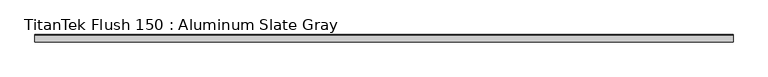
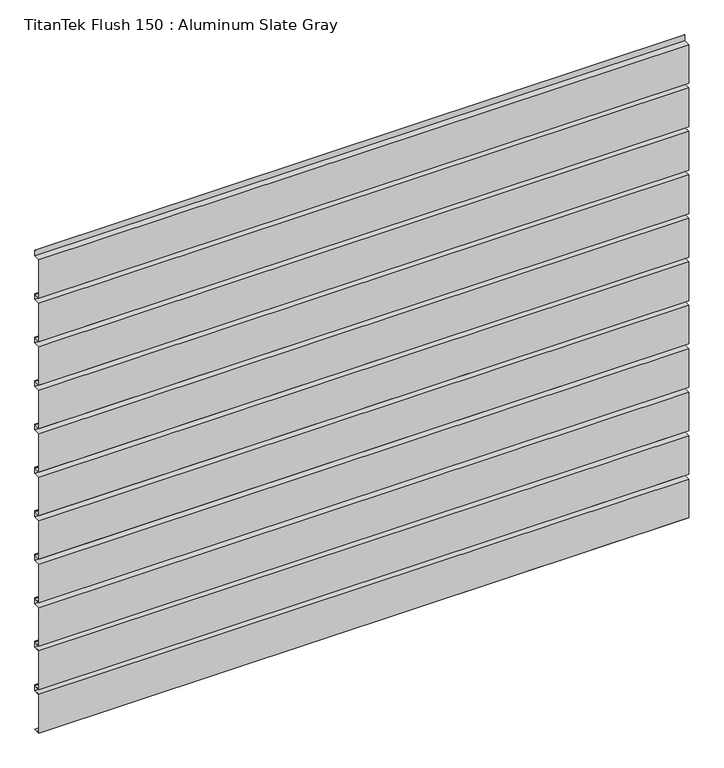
"""IFC4 building model written with IfcOpenShell, lengths in millimetres: proxy geometry, TitanTek Flush 150 : Aluminum Slate Gray."""

from ifc_helpers import new_model, si_unit, frame, origin, place, context, project, spatial, polyline, outline, extrude, source, transform, mapped, element, save


def titantek_flush_150_aluminum_slate_gray_06856ec8(model_context):
    return source(origin(), model_context, "Body", "SweptSolid", [
        extrude(outline(polyline([(-38.1, 3429.0), (-38.1, 3733.8), (12.7, 3733.8), (12.7, 3778.25), (13.6921875, 3778.25), (13.6921875, 3732.8078125), (-37.1078125, 3732.8078125), (-37.1078125, 3429.9921875), (12.7, 3429.9921875), (12.7, 3429.0), (-38.1, 3429.0)])), frame((0.0, 0.0, 0.0), z_axis=(1.0, 0.0, 0.0), x_axis=(0.0, 1.0, 0.0)), (0.0, 0.0, 1.0), 4850.0),
        extrude(outline(polyline([(-38.1, 3086.1), (-38.1, 3390.9), (12.7, 3390.9), (12.7, 3435.35), (13.6921875, 3435.35), (13.6921875, 3389.9078125), (-37.1078125, 3389.9078125), (-37.1078125, 3087.0921875), (12.7, 3087.0921875), (12.7, 3086.1), (-38.1, 3086.1)])), frame((0.0, 0.0, 0.0), z_axis=(1.0, 0.0, 0.0), x_axis=(0.0, 1.0, 0.0)), (0.0, 0.0, 1.0), 4850.0),
        extrude(outline(polyline([(-38.1, 2743.2), (-38.1, 3048.0), (12.7, 3048.0), (12.7, 3092.45), (13.6921875, 3092.45), (13.6921875, 3047.0078125), (-37.1078125, 3047.0078125), (-37.1078125, 2744.1921875), (12.7, 2744.1921875), (12.7, 2743.2), (-38.1, 2743.2)])), frame((0.0, 0.0, 0.0), z_axis=(1.0, 0.0, 0.0), x_axis=(0.0, 1.0, 0.0)), (0.0, 0.0, 1.0), 4850.0),
        extrude(outline(polyline([(-38.1, 2400.3), (-38.1, 2705.1), (12.7, 2705.1), (12.7, 2749.55), (13.6921875, 2749.55), (13.6921875, 2704.1078125), (-37.1078125, 2704.1078125), (-37.1078125, 2401.2921875), (12.7, 2401.2921875), (12.7, 2400.3), (-38.1, 2400.3)])), frame((0.0, 0.0, 0.0), z_axis=(1.0, 0.0, 0.0), x_axis=(0.0, 1.0, 0.0)), (0.0, 0.0, 1.0), 4850.0),
        extrude(outline(polyline([(-38.1, 2057.4), (-38.1, 2362.2), (12.7, 2362.2), (12.7, 2406.65), (13.6921875, 2406.65), (13.6921875, 2361.2078125), (-37.1078125, 2361.2078125), (-37.1078125, 2058.3921875), (12.7, 2058.3921875), (12.7, 2057.4), (-38.1, 2057.4)])), frame((0.0, 0.0, 0.0), z_axis=(1.0, 0.0, 0.0), x_axis=(0.0, 1.0, 0.0)), (0.0, 0.0, 1.0), 4850.0),
        extrude(outline(polyline([(-38.1, 1714.5), (-38.1, 2019.3), (12.7, 2019.3), (12.7, 2063.75), (13.6921875, 2063.75), (13.6921875, 2018.3078125), (-37.1078125, 2018.3078125), (-37.1078125, 1715.4921875), (12.7, 1715.4921875), (12.7, 1714.5), (-38.1, 1714.5)])), frame((0.0, 0.0, 0.0), z_axis=(1.0, 0.0, 0.0), x_axis=(0.0, 1.0, 0.0)), (0.0, 0.0, 1.0), 4850.0),
        extrude(outline(polyline([(-38.1, 1371.6), (-38.1, 1676.4), (12.7, 1676.4), (12.7, 1720.85), (13.6921875, 1720.85), (13.6921875, 1675.4078125), (-37.1078125, 1675.4078125), (-37.1078125, 1372.5921875), (12.7, 1372.5921875), (12.7, 1371.6), (-38.1, 1371.6)])), frame((0.0, 0.0, 0.0), z_axis=(1.0, 0.0, 0.0), x_axis=(0.0, 1.0, 0.0)), (0.0, 0.0, 1.0), 4850.0),
        extrude(outline(polyline([(-38.1, 1028.7), (-38.1, 1333.5), (12.7, 1333.5), (12.7, 1377.95), (13.6921875, 1377.95), (13.6921875, 1332.5078125), (-37.1078125, 1332.5078125), (-37.1078125, 1029.6921875), (12.7, 1029.6921875), (12.7, 1028.7), (-38.1, 1028.7)])), frame((0.0, 0.0, 0.0), z_axis=(1.0, 0.0, 0.0), x_axis=(0.0, 1.0, 0.0)), (0.0, 0.0, 1.0), 4850.0),
        extrude(outline(polyline([(-38.1, 685.8), (-38.1, 990.6), (12.7, 990.6), (12.7, 1035.05), (13.6921875, 1035.05), (13.6921875, 989.6078125), (-37.1078125, 989.6078125), (-37.1078125, 686.7921875), (12.7, 686.7921875), (12.7, 685.8), (-38.1, 685.8)])), frame((0.0, 0.0, 0.0), z_axis=(1.0, 0.0, 0.0), x_axis=(0.0, 1.0, 0.0)), (0.0, 0.0, 1.0), 4850.0),
        extrude(outline(polyline([(-38.1, 342.9), (-38.1, 647.7), (12.7, 647.7), (12.7, 692.15), (13.6921875, 692.15), (13.6921875, 646.7078125), (-37.1078125, 646.7078125), (-37.1078125, 343.8921875), (12.7, 343.8921875), (12.7, 342.9), (-38.1, 342.9)])), frame((0.0, 0.0, 0.0), z_axis=(1.0, 0.0, 0.0), x_axis=(0.0, 1.0, 0.0)), (0.0, 0.0, 1.0), 4850.0),
        extrude(outline(polyline([(-38.1, 0.0), (-38.1, 304.8), (12.7, 304.8), (12.7, 349.25), (13.6921875, 349.25), (13.6921875, 303.8078125), (-37.1078125, 303.8078125), (-37.1078125, 0.9921875), (12.7, 0.9921875), (12.7, 0.0), (-38.1, 0.0)])), frame((0.0, 0.0, 0.0), z_axis=(1.0, 0.0, 0.0), x_axis=(0.0, 1.0, 0.0)), (0.0, 0.0, 1.0), 4850.0),
    ])


if __name__ == "__main__":
    model = new_model("IFC4")
    model_context = context("Model", 3, world=origin())
    ifc_project = project(units=[si_unit("LENGTHUNIT", "METRE", prefix="MILLI")], contexts=[model_context])
    site = spatial("IfcSite", under=ifc_project)
    building = spatial("IfcBuilding", under=site)
    placement = place(None, origin())
    titantek_flush_150_aluminum_slate_gray_shape = titantek_flush_150_aluminum_slate_gray_06856ec8(model_context)
    element("IfcBuildingElementProxy", 1, Name="TitanTek Flush 150 : Aluminum Slate Gray", ObjectType="TitanTek Flush 150 : Aluminum Slate Gray", at=placement, inside=building, context=model_context, shape_type="MappedRepresentation", body=[
        mapped(titantek_flush_150_aluminum_slate_gray_shape, transform((0.0, 0.0, 0.0), x_axis=(1.0, 0.0, 0.0), y_axis=(0.0, 1.0, 0.0), z_axis=(0.0, 0.0, 1.0))),
    ])
    save(model, "model.ifc")
